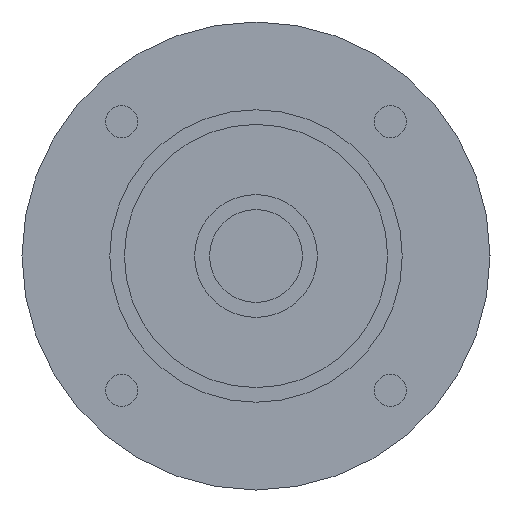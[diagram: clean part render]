
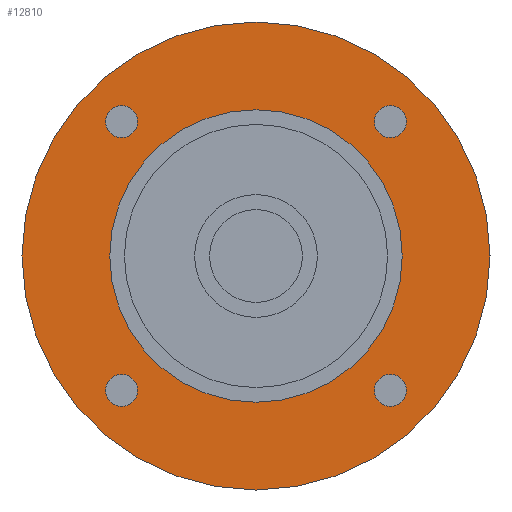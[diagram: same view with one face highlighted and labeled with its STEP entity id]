
A CAD part, left-side view. The second image highlights one B-rep face of the part: STEP entity #12810.
In plain terms, the highlighted planar face has unit normal (-1, 0, 0) as drawn and (0, 0, -1) by its records, which use the part's own axes.
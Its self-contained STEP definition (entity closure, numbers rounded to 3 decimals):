
#11630=CARTESIAN_POINT('',(-40.,0.,-42.2));
#11640=VERTEX_POINT('',#11630);
#11730=CARTESIAN_POINT('',(40.,0.,-42.2));
#11740=VERTEX_POINT('',#11730);
#11770=CARTESIAN_POINT('',(0.,0.,
-42.2));
#11780=DIRECTION('',(0.,0.,1.));
#11790=DIRECTION('',(1.,0.,0.));
#11800=AXIS2_PLACEMENT_3D('',#11770,#11780,#11790);
#11810=CIRCLE('',#11800,40.);
#11820=CARTESIAN_POINT('',(0.,-40.,-42.2));
#11830=VERTEX_POINT('',#11820);
#11840=EDGE_CURVE('',#11830,#11740,#11810,.T.);
#11860=EDGE_CURVE('',#11640,#11830,#11810,.T.);
#11910=CARTESIAN_POINT('',(0.,0.,
-42.2));
#11920=DIRECTION('',(0.,0.,-1.));
#11930=DIRECTION('',(1.,0.,0.));
#11940=AXIS2_PLACEMENT_3D('',#11910,#11920,#11930);
#11950=PLANE('',#11940);
#11960=CARTESIAN_POINT('',(22.981,-22.981,-42.2));
#11970=DIRECTION('',(0.,0.,-1.));
#11980=DIRECTION('',(1.,0.,0.));
#11990=AXIS2_PLACEMENT_3D('',#11960,#11970,#11980);
#12000=CIRCLE('',#11990,2.75);
#12010=CARTESIAN_POINT('',(25.731,-22.981,-42.2));
#12020=VERTEX_POINT('',#12010);
#12030=CARTESIAN_POINT('',(20.231,-22.981,-42.2));
#12040=VERTEX_POINT('',#12030);
#12050=EDGE_CURVE('',#12020,#12040,#12000,.T.);
#12060=ORIENTED_EDGE('',*,*,#12050,.F.);
#12070=EDGE_CURVE('',#12040,#12020,#12000,.T.);
#12080=ORIENTED_EDGE('',*,*,#12070,.F.);
#12090=EDGE_LOOP('',(#12080,#12060));
#12100=FACE_BOUND('',#12090,.T.);
#12110=ORIENTED_EDGE('',*,*,#11840,.F.);
#12120=EDGE_CURVE('',#11740,#11640,#11810,.T.);
#12130=ORIENTED_EDGE('',*,*,#12120,.F.);
#12140=ORIENTED_EDGE('',*,*,#11860,.F.);
#12150=EDGE_LOOP('',(#12140,#12130,#12110));
#12160=FACE_OUTER_BOUND('',#12150,.T.);
#12170=CARTESIAN_POINT('',(22.981,22.981,-42.2));
#12180=DIRECTION('',(0.,0.,-1.));
#12190=DIRECTION('',(0.,1.,0.));
#12200=AXIS2_PLACEMENT_3D('',#12170,#12180,#12190);
#12210=CIRCLE('',#12200,2.75);
#12220=CARTESIAN_POINT('',(22.981,25.731,-42.2));
#12230=VERTEX_POINT('',#12220);
#12240=CARTESIAN_POINT('',(22.981,20.231,-42.2));
#12250=VERTEX_POINT('',#12240);
#12260=EDGE_CURVE('',#12230,#12250,#12210,.T.);
#12270=ORIENTED_EDGE('',*,*,#12260,.F.);
#12280=EDGE_CURVE('',#12250,#12230,#12210,.T.);
#12290=ORIENTED_EDGE('',*,*,#12280,.F.);
#12300=EDGE_LOOP('',(#12290,#12270));
#12310=FACE_BOUND('',#12300,.T.);
#12320=CARTESIAN_POINT('',(-22.981,22.981,-42.2));
#12330=DIRECTION('',(0.,0.,-1.));
#12340=DIRECTION('',(-1.,0.,0.));
#12350=AXIS2_PLACEMENT_3D('',#12320,#12330,#12340);
#12360=CIRCLE('',#12350,2.75);
#12370=CARTESIAN_POINT('',(-25.731,22.981,-42.2));
#12380=VERTEX_POINT('',#12370);
#12390=CARTESIAN_POINT('',(-20.231,22.981,-42.2));
#12400=VERTEX_POINT('',#12390);
#12410=EDGE_CURVE('',#12380,#12400,#12360,.T.);
#12420=ORIENTED_EDGE('',*,*,#12410,.F.);
#12430=EDGE_CURVE('',#12400,#12380,#12360,.T.);
#12440=ORIENTED_EDGE('',*,*,#12430,.F.);
#12450=EDGE_LOOP('',(#12440,#12420));
#12460=FACE_BOUND('',#12450,.T.);
#12470=CARTESIAN_POINT('',(-22.981,-22.981,-42.2));
#12480=DIRECTION('',(0.,0.,-1.));
#12490=DIRECTION('',(0.,-1.,0.));
#12500=AXIS2_PLACEMENT_3D('',#12470,#12480,#12490);
#12510=CIRCLE('',#12500,2.75);
#12520=CARTESIAN_POINT('',(-22.981,-25.731,-42.2));
#12530=VERTEX_POINT('',#12520);
#12540=CARTESIAN_POINT('',(-22.981,-20.231,-42.2));
#12550=VERTEX_POINT('',#12540);
#12560=EDGE_CURVE('',#12530,#12550,#12510,.T.);
#12570=ORIENTED_EDGE('',*,*,#12560,.F.);
#12580=EDGE_CURVE('',#12550,#12530,#12510,.T.);
#12590=ORIENTED_EDGE('',*,*,#12580,.F.);
#12600=EDGE_LOOP('',(#12590,#12570));
#12610=FACE_BOUND('',#12600,.T.);
#12620=CARTESIAN_POINT('',(0.,0.,
-42.2));
#12630=DIRECTION('',(0.,0.,1.));
#12640=DIRECTION('',(0.,1.,0.));
#12650=AXIS2_PLACEMENT_3D('',#12620,#12630,#12640);
#12660=CIRCLE('',#12650,25.);
#12670=CARTESIAN_POINT('',(-25.,0.,-42.2));
#12680=VERTEX_POINT('',#12670);
#12690=CARTESIAN_POINT('',(25.,0.,-42.2));
#12700=VERTEX_POINT('',#12690);
#12710=EDGE_CURVE('',#12680,#12700,#12660,.T.);
#12720=ORIENTED_EDGE('',*,*,#12710,.T.);
#12730=CARTESIAN_POINT('',(0.,25.,-42.2));
#12740=VERTEX_POINT('',#12730);
#12750=EDGE_CURVE('',#12740,#12680,#12660,.T.);
#12760=ORIENTED_EDGE('',*,*,#12750,.T.);
#12770=EDGE_CURVE('',#12700,#12740,#12660,.T.);
#12780=ORIENTED_EDGE('',*,*,#12770,.T.);
#12790=EDGE_LOOP('',(#12780,#12760,#12720));
#12800=FACE_BOUND('',#12790,.T.);
#12810=ADVANCED_FACE('',(#12100,#12160,#12310,#12460,#12610,#12800),
#11950,.T.);
